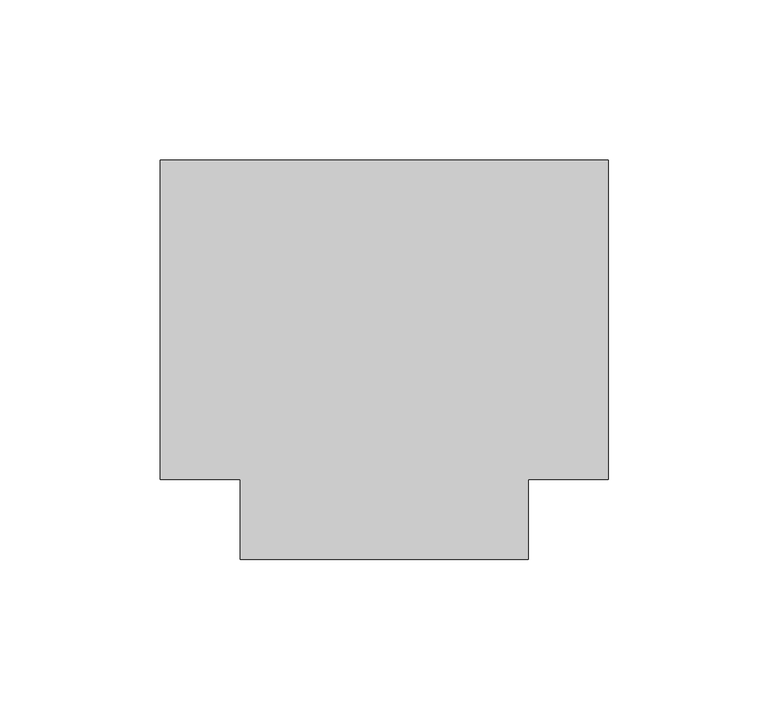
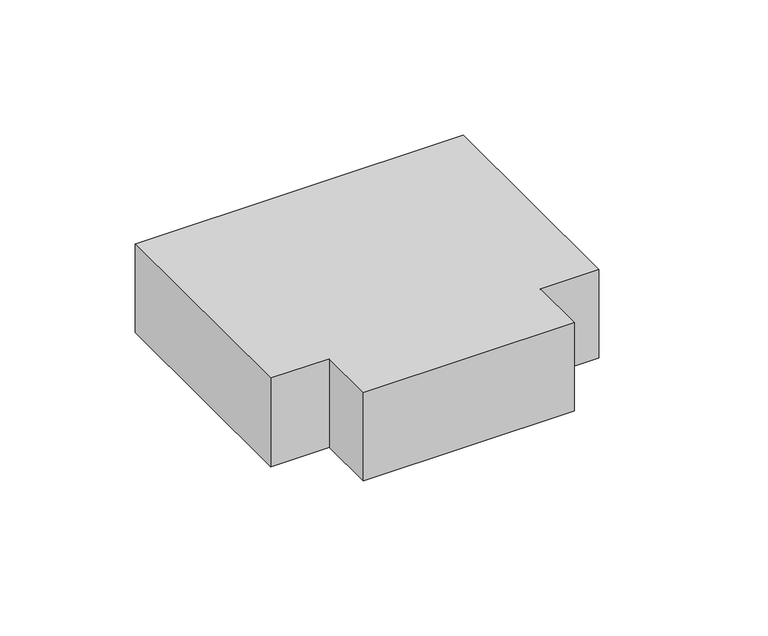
"""IFC4 building model written with IfcOpenShell, lengths in millimetres: duct fitting geometry, КНС_Тройник_DKC : Стандарт."""

import ifcopenshell
import ifcopenshell.guid

model = None  # the IFC model being written
_history = None  # IfcOwnerHistory: only IFC2X3 demands one
_inside = {}  # id of a spatial element -> (the spatial element, [elements in it])
_under = {}  # id of a project, library or spatial element -> (it, [spatial elements below it])
_declared = {}  # id of a project -> (the project, [libraries it declares])
_typed = {}  # id of a type object -> (the type object, [elements of that type])
_made_of = {}  # id of a material, layer set ... -> (it, [elements and type objects made of it])


def new_model(schema):
    """Start an empty IFC model of exactly this schema.

    Asked for "IFC4X3", IfcOpenShell would pick the latest addendum, in which some entities
    have other attributes; the version numbers below select the first issue.
    IFC2X3 requires an IfcOwnerHistory on every rooted entity: one is made here for all.
    """
    global model, _history
    if schema == "IFC4X3":
        model = ifcopenshell.file(schema_version=(4, 3, 0, 0))
    else:
        model = ifcopenshell.file(schema=schema)
    _inside.clear()
    _under.clear()
    _declared.clear()
    _typed.clear()
    _made_of.clear()
    _history = None
    if model.schema == "IFC2X3":
        org = make("IfcOrganization", Name="unknown")
        user = make(
            "IfcPersonAndOrganization",
            ThePerson=make("IfcPerson", FamilyName="unknown"),
            TheOrganization=org,
        )
        app = make(
            "IfcApplication",
            ApplicationDeveloper=org,
            Version="unknown",
            ApplicationFullName="unknown",
            ApplicationIdentifier="unknown",
        )
        _history = make(
            "IfcOwnerHistory",
            OwningUser=user,
            OwningApplication=app,
            ChangeAction="ADDED",
            CreationDate=0,
        )
    return model


def make(cls, **values):
    """One entity of the class cls with the attributes given. An attribute that is None is left unset."""
    return model.create_entity(
        cls, **{name: value for name, value in values.items() if value is not None}
    )


def rooted(cls, **values):
    """An entity with a GlobalId (a new one), such as an element, a storey or a relation."""
    return make(cls, GlobalId=ifcopenshell.guid.new(), OwnerHistory=_history, **values)


def si_unit(unit_type, name, prefix=None):
    """IfcSIUnit, for example si_unit("LENGTHUNIT", "METRE", prefix="MILLI")."""
    return make("IfcSIUnit", UnitType=unit_type, Prefix=prefix, Name=name)


def assignment(units):
    """IfcUnitAssignment: the units of a project."""
    return None if units is None else make("IfcUnitAssignment", Units=units)


def point(xyz):
    """IfcCartesianPoint."""
    return None if xyz is None else make("IfcCartesianPoint", Coordinates=xyz)


def direction(xyz):
    """IfcDirection."""
    return None if xyz is None else make("IfcDirection", DirectionRatios=xyz)


def frame(location, z_axis=None, x_axis=None):
    """IfcAxis2Placement3D, a coordinate frame: its origin and axes. An axis left out is left unset."""
    return make(
        "IfcAxis2Placement3D",
        Location=point(location),
        Axis=direction(z_axis),
        RefDirection=direction(x_axis),
    )


def origin():
    """The frame at (0, 0, 0) with its axes left unset."""
    return frame((0.0, 0.0, 0.0))


def place(relative_to, where):
    """IfcLocalPlacement: puts the frame where relative to a parent placement (None: the world)."""
    return make(
        "IfcLocalPlacement", PlacementRelTo=relative_to, RelativePlacement=where
    )


def context(
    kind, dimensions, precision=None, world=None, true_north=None, identifier=None
):
    """IfcGeometricRepresentationContext, for example the 3D "Model" context."""
    return make(
        "IfcGeometricRepresentationContext",
        ContextIdentifier=identifier,
        ContextType=kind,
        CoordinateSpaceDimension=dimensions,
        Precision=precision,
        WorldCoordinateSystem=world,
        TrueNorth=true_north,
    )


def project(units=None, contexts=None):
    """IfcProject with its units and contexts."""
    return rooted(
        "IfcProject",
        Name="project",
        RepresentationContexts=contexts,
        UnitsInContext=assignment(units),
    )


def spatial(cls, under=None, at=None, **own):
    """A site, building, storey or space (cls), placed at a placement, below another one or the project."""
    s = rooted(cls, ObjectPlacement=at, **own)
    if under is not None:
        _under.setdefault(under.id(), (under, []))[1].append(s)
    return s


def polyline(points):
    """IfcPolyline through the points."""
    return make("IfcPolyline", Points=[point(p) for p in points])


def outline(outer, holes=None, kind="AREA"):
    """IfcArbitraryClosedProfileDef: a profile drawn as a closed curve; with holes, ...WithVoids."""
    if holes is None:
        return make("IfcArbitraryClosedProfileDef", ProfileType=kind, OuterCurve=outer)
    return make(
        "IfcArbitraryProfileDefWithVoids",
        ProfileType=kind,
        OuterCurve=outer,
        InnerCurves=holes,
    )


def extrude(swept, where, along, depth):
    """IfcExtrudedAreaSolid: the profile swept, set in the frame where, extruded along a direction by depth."""
    return make(
        "IfcExtrudedAreaSolid",
        SweptArea=swept,
        Position=where,
        ExtrudedDirection=direction(along),
        Depth=depth,
    )


def shape(context_of_items, identifier, shape_type, items):
    """IfcShapeRepresentation: the items that make up one representation, for example the "Body"."""
    return make(
        "IfcShapeRepresentation",
        ContextOfItems=context_of_items,
        RepresentationIdentifier=identifier,
        RepresentationType=shape_type,
        Items=items,
    )


def source(mapping_origin, context_of_items, identifier, shape_type, items):
    """IfcRepresentationMap: a shape defined once, which mapped items show again and again."""
    return make(
        "IfcRepresentationMap",
        MappingOrigin=mapping_origin,
        MappedRepresentation=shape(context_of_items, identifier, shape_type, items),
    )


def transform(
    local_origin,
    x_axis=None,
    y_axis=None,
    z_axis=None,
    scale=None,
    scale2=None,
    scale3=None,
    uniform=True,
):
    """IfcCartesianTransformationOperator3D, or its non-uniform kind. x_axis, y_axis, z_axis: its Axis1, 2, 3."""
    if uniform:
        return make(
            "IfcCartesianTransformationOperator3D",
            Axis1=direction(x_axis),
            Axis2=direction(y_axis),
            LocalOrigin=point(local_origin),
            Scale=scale,
            Axis3=direction(z_axis),
        )
    return make(
        "IfcCartesianTransformationOperator3DnonUniform",
        Axis1=direction(x_axis),
        Axis2=direction(y_axis),
        LocalOrigin=point(local_origin),
        Scale=scale,
        Axis3=direction(z_axis),
        Scale2=scale2,
        Scale3=scale3,
    )


def mapped(mapping_source, mapping_target):
    """IfcMappedItem: shows the shape of a source again, moved by a transform."""
    return make(
        "IfcMappedItem", MappingSource=mapping_source, MappingTarget=mapping_target
    )


def made_of(thing, what):
    """Note that an element or type object is made of a material, layer set ...; save() writes the relation."""
    if what is not None:
        _made_of.setdefault(what.id(), (what, []))[1].append(thing)
    return thing


def element(
    cls,
    number,
    at=None,
    inside=None,
    cuts=None,
    type_object=None,
    material=None,
    context=None,
    identifier="Body",
    shape_type=None,
    held_by="IfcProductDefinitionShape",
    body=None,
    shapes=None,
    **own,
):
    """One element of the class cls, such as IfcWall. Its Tag is "e" and its number.

    at: its placement. inside: the storey or other place that contains it. cuts: it is an
    opening in that element (IfcRelVoidsElement). A single representation is given by context,
    identifier, shape_type and body (its items); several are given by shapes. held_by: the class
    of the entity that holds the representations. save() writes the other relations.
    """
    e = rooted(cls, Tag="e%d" % number, ObjectPlacement=at, **own)
    if body is not None:
        shapes = [shape(context, identifier, shape_type, body)]
    if shapes is not None:
        e.Representation = make(held_by, Representations=shapes)
    if inside is not None:
        _inside.setdefault(inside.id(), (inside, []))[1].append(e)
    if cuts is not None:
        rooted(
            "IfcRelVoidsElement", RelatingBuildingElement=cuts, RelatedOpeningElement=e
        )
    if type_object is not None:
        _typed.setdefault(type_object.id(), (type_object, []))[1].append(e)
    return made_of(e, material)


def aggregate(whole, parts):
    """IfcRelAggregates: a whole, such as a stair, and the parts it consists of."""
    return rooted("IfcRelAggregates", RelatingObject=whole, RelatedObjects=parts)


def save(model, path):
    """Write the relations noted so far, then the file.

    IfcRelAggregates (storeys below a building ...), IfcRelContainedInSpatialStructure (elements
    in a storey), IfcRelDefinesByType, IfcRelAssociatesMaterial and IfcRelDeclares: one each for
    every whole, place, type object, material and project.
    """
    for whole, parts in _under.values():
        aggregate(whole, parts)
    for where, things in _inside.values():
        rooted(
            "IfcRelContainedInSpatialStructure",
            RelatedElements=things,
            RelatingStructure=where,
        )
    for kind, things in _typed.values():
        rooted("IfcRelDefinesByType", RelatedObjects=things, RelatingType=kind)
    for what, things in _made_of.values():
        rooted("IfcRelAssociatesMaterial", RelatedObjects=things, RelatingMaterial=what)
    for by, libraries in _declared.values():
        rooted("IfcRelDeclares", RelatingContext=by, RelatedDefinitions=libraries)
    model.write(path)


def duct_fitting_99bbee2b(model_context):
    return source(origin(), model_context, "Body", "SweptSolid", [
        extrude(outline(polyline([(-70.0, -50.0), (-70.0, 50.0), (70.0, 50.0), (70.0, -50.0), (45.0, -50.0), (45.0, -75.0), (-45.0, -75.0), (-45.0, -50.0), (-70.0, -50.0)])), frame((0.0, 0.0, -20.0), z_axis=(0.0, 0.0, 1.0), x_axis=(1.0, 0.0, 0.0)), (0.0, 0.0, 1.0), 40.0),
    ])


if __name__ == "__main__":
    model = new_model("IFC4")
    model_context = context("Model", 3, world=origin())
    ifc_project = project(units=[si_unit("LENGTHUNIT", "METRE", prefix="MILLI")], contexts=[model_context])
    site = spatial("IfcSite", under=ifc_project)
    building = spatial("IfcBuilding", under=site)
    placement = place(None, origin())
    duct_fitting_shape = duct_fitting_99bbee2b(model_context)
    element("IfcDuctFitting", 1, ObjectType="КНС_Тройник_DKC : Стандарт", at=placement, inside=building, context=model_context, shape_type="MappedRepresentation", body=[
        mapped(duct_fitting_shape, transform((0.0, 0.0, 0.0), x_axis=(1.0, 0.0, 0.0), y_axis=(0.0, 1.0, 0.0), z_axis=(0.0, 0.0, 1.0))),
    ])
    save(model, "model.ifc")
